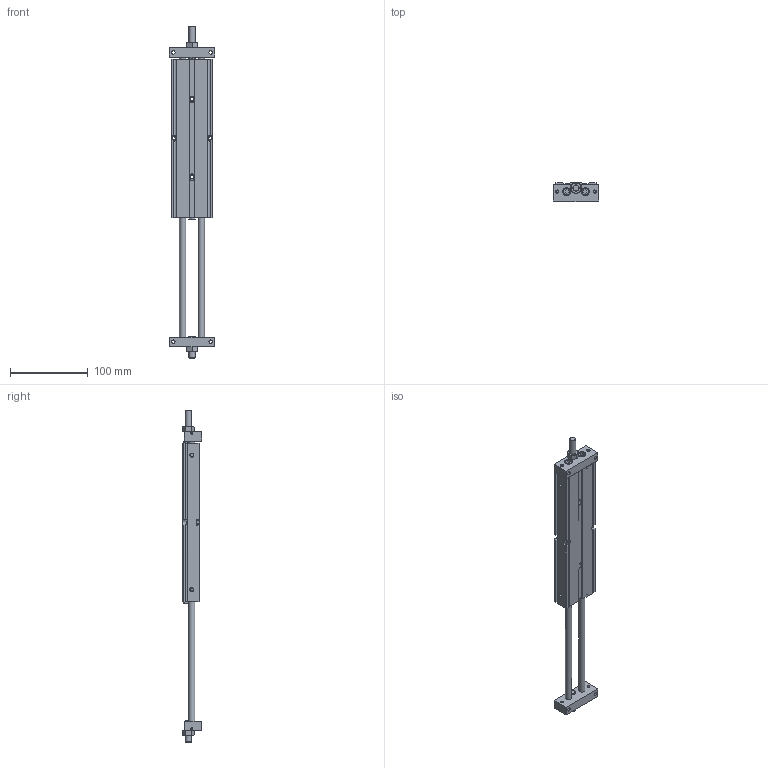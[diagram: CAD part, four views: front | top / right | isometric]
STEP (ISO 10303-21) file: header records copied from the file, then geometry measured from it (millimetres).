
FILE_DESCRIPTION((''),'2;1');
FILE_NAME('I:\3D電子目錄\氣缸\STU\STU\STU16\STU16x150.stp','2007-10-01T08:52:27',('Administrator'),(''),'Autodesk Inventor 11','Autodesk Inventor 11','');
FILE_SCHEMA(('AUTOMOTIVE_DESIGN { 1 0 10303 214 1 1 1 1 }'));
Length unit declared in the file: millimetre
Products named in the file (1): STU16
Bounding box: 58 x 24.51 x 427 mm (x, y, z)
Volume: 258309.3 mm3; surface area: 67206.8 mm2
Topology: 1 solids, 1 shells, 315 faces, 775 edges, 493 vertices
Faces by surface type: plane 161, cone 71, bspline 48, cylinder 35
Full cylindrical faces by diameter (mm): 2.459 x2, 8 x7, 8.5 x4, 9.5 x4, 18 x2, 19.2 x2
Entity records: 10033 total; most frequent: CARTESIAN_POINT 3278, ORIENTED_EDGE 1350, DIRECTION 1290, EDGE_CURVE 675, VERTEX_POINT 475, EDGE_LOOP 474, AXIS2_PLACEMENT_3D 473, VECTOR 344
